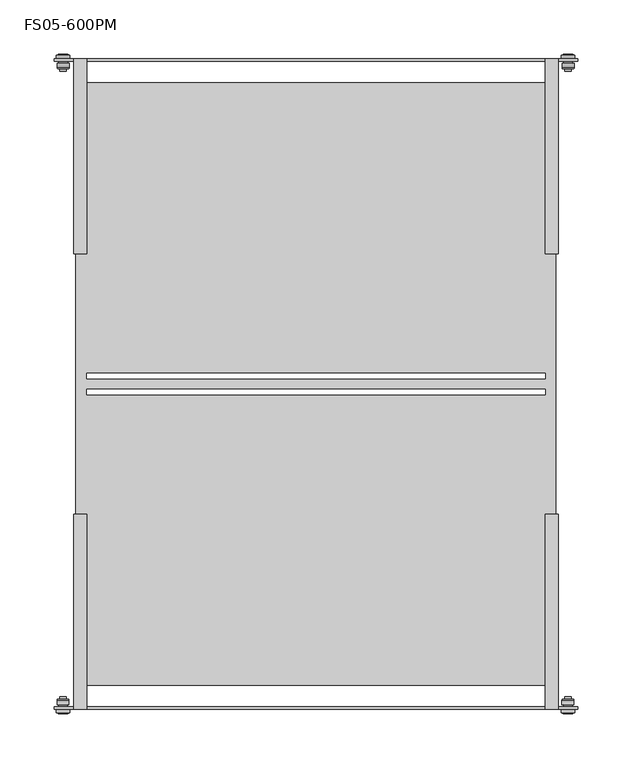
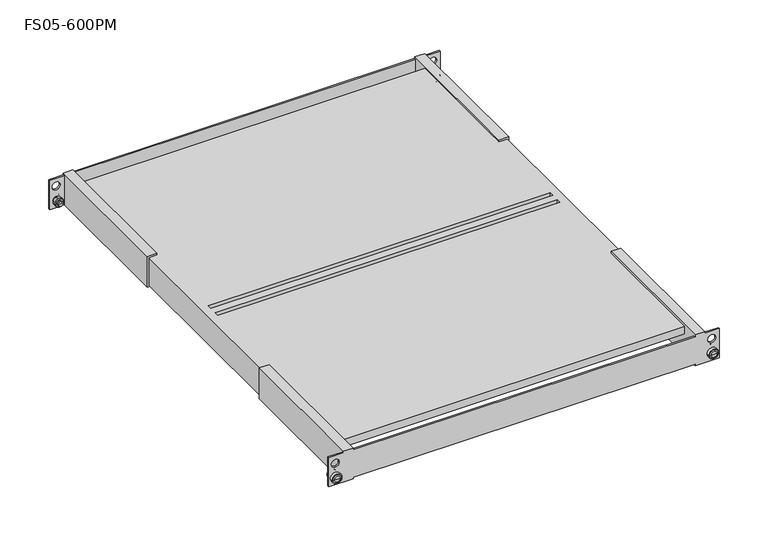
"""IFC4 building model written with IfcOpenShell, lengths in millimetres: proxy geometry, Полки стационарные усиленные : FS05-600PM."""

from ifc_helpers import new_model, si_unit, point, frame, origin, place, context, project, spatial, polyline, circle_curve, ellipse_curve, trimmed, source, transform, mapped, element, save
from ifc_brep_helpers import plane_surface, cylinder_surface, revolved_surface, advanced_brep


def fs05_600pm_b98099e4(model_context):
    return source(origin(), model_context, "Body", "AdvancedBrep", [
        advanced_brep(
        [(232.5819993, -304.3499926, 10.0), (236.0759317, -304.3499926, 10.0), (229.0880669, -304.3499926, 10.0), (229.5820007, -288.7499968, 10.0), (235.5819979, -288.7499968, 10.0), (232.5819993, -288.7499968, 10.0), (229.5820007, -290.7999942, 10.0), (235.5819979, -290.7999942, 10.0), (228.0787333, -290.7999942, 10.0), (237.0852653, -290.7999942, 10.0), (227.082003, -291.7967245, 10.0), (238.0819955, -291.7967245, 10.0), (227.082003, -295.8, 10.0), (238.0819955, -295.8, 10.0), (228.4086476, -298.0, 10.0), (236.755351, -298.0, 10.0), (228.4086476, -300.0, 10.0), (236.755351, -300.0, 10.0), (226.3319978, -300.0, 10.0), (238.8320008, -300.0, 10.0), (226.3319978, -303.5000006, 10.0), (238.8320008, -303.5000006, 10.0), (227.2038342, -303.5000006, 10.0), (237.9601644, -303.5000006, 10.0)],
        [
            (0, 1),
            (1, 2, circle_curve(frame((232.5819993, -304.3499926, 10.0), z_axis=(0.0, -1.0, 0.0), x_axis=(1.0, 0.0, 0.0)), 3.4939324)),
            (2, 0),
            (2, 1, circle_curve(frame((232.5819993, -304.3499926, 10.0), z_axis=(0.0, -1.0, 0.0), x_axis=(1.0, 0.0, 0.0)), 3.4939324)),
            (3, 4, circle_curve(frame((232.5819993, -288.7499968, 10.0), z_axis=(0.0, 1.0, 0.0), x_axis=(1.0, 0.0, 0.0)), 2.9999986)),
            (4, 5),
            (5, 3),
            (4, 3, circle_curve(frame((232.5819993, -288.7499968, 10.0), z_axis=(0.0, 1.0, 0.0), x_axis=(1.0, 0.0, 0.0)), 2.9999986)),
            (6, 7, circle_curve(frame((232.5819993, -290.7999942, 10.0), z_axis=(0.0, 1.0, 0.0), x_axis=(1.0, 0.0, 0.0)), 2.9999986)),
            (7, 4),
            (3, 6),
            (7, 6, circle_curve(frame((232.5819993, -290.7999942, 10.0), z_axis=(0.0, 1.0, 0.0), x_axis=(1.0, 0.0, 0.0)), 2.9999986)),
            (8, 9, circle_curve(frame((232.5819993, -290.7999942, 10.0), z_axis=(0.0, 1.0, 0.0), x_axis=(1.0, 0.0, 0.0)), 4.503266)),
            (9, 7),
            (6, 8),
            (9, 8, circle_curve(frame((232.5819993, -290.7999942, 10.0), z_axis=(0.0, 1.0, 0.0), x_axis=(1.0, 0.0, 0.0)), 4.503266)),
            (10, 11, circle_curve(frame((232.5819993, -291.7967245, 10.0), z_axis=(0.0, 1.0, 0.0), x_axis=(1.0, 0.0, 0.0)), 5.4999962)),
            (11, 9, circle_curve(frame((237.0852653, -291.7967245, 10.0), z_axis=(0.0, 0.0, 1.0), x_axis=(-1.0, 0.0, 0.0)), 0.9967303)),
            (8, 10, circle_curve(frame((228.0787333, -291.7967245, 10.0), z_axis=(0.0, 0.0, 1.0), x_axis=(1.0, 0.0, 0.0)), 0.9967303)),
            (11, 10, circle_curve(frame((232.5819993, -291.7967245, 10.0), z_axis=(0.0, 1.0, 0.0), x_axis=(1.0, 0.0, 0.0)), 5.4999962)),
            (12, 13, circle_curve(frame((232.5819993, -295.8, 10.0), z_axis=(0.0, 1.0, 0.0), x_axis=(1.0, 0.0, 0.0)), 5.4999962)),
            (13, 11),
            (10, 12),
            (13, 12, circle_curve(frame((232.5819993, -295.8, 10.0), z_axis=(0.0, 1.0, 0.0), x_axis=(1.0, 0.0, 0.0)), 5.4999962)),
            (14, 15, circle_curve(frame((232.5819993, -298.0, 10.0), z_axis=(0.0, 1.0, 0.0), x_axis=(1.0, 0.0, 0.0)), 4.1733517)),
            (15, 13, circle_curve(frame((238.0820009, -297.3, 10.0), z_axis=(0.0, 0.0, -1.0), x_axis=(-1.0, 0.0, 0.0)), 1.5)),
            (12, 14, circle_curve(frame((227.0819977, -297.3, 10.0), z_axis=(0.0, 0.0, -1.0), x_axis=(1.0, 0.0, 0.0)), 1.5)),
            (15, 14, circle_curve(frame((232.5819993, -298.0, 10.0), z_axis=(0.0, 1.0, 0.0), x_axis=(1.0, 0.0, 0.0)), 4.1733517)),
            (16, 17, circle_curve(frame((232.5819993, -300.0, 10.0), z_axis=(0.0, 1.0, 0.0), x_axis=(1.0, 0.0, 0.0)), 4.1733517)),
            (17, 15),
            (14, 16),
            (17, 16, circle_curve(frame((232.5819993, -300.0, 10.0), z_axis=(0.0, 1.0, 0.0), x_axis=(1.0, 0.0, 0.0)), 4.1733517)),
            (18, 19, circle_curve(frame((232.5819993, -300.0, 10.0), z_axis=(0.0, 1.0, 0.0), x_axis=(1.0, 0.0, 0.0)), 6.2500015)),
            (19, 17),
            (16, 18),
            (19, 18, circle_curve(frame((232.5819993, -300.0, 10.0), z_axis=(0.0, 1.0, 0.0), x_axis=(1.0, 0.0, 0.0)), 6.2500015)),
            (20, 21, circle_curve(frame((232.5819993, -303.5000006, 10.0), z_axis=(0.0, 1.0, 0.0), x_axis=(1.0, 0.0, 0.0)), 6.2500015)),
            (21, 19),
            (18, 20),
            (21, 20, circle_curve(frame((232.5819993, -303.5000006, 10.0), z_axis=(0.0, 1.0, 0.0), x_axis=(1.0, 0.0, 0.0)), 6.2500015)),
            (22, 23, circle_curve(frame((232.5819993, -303.5000006, 10.0), z_axis=(0.0, 1.0, 0.0), x_axis=(1.0, 0.0, 0.0)), 5.3781651)),
            (23, 21),
            (20, 22),
            (23, 22, circle_curve(frame((232.5819993, -303.5000006, 10.0), z_axis=(0.0, 1.0, 0.0), x_axis=(1.0, 0.0, 0.0)), 5.3781651)),
            (1, 23, circle_curve(frame((236.0820009, -301.85, 10.0), z_axis=(0.0, 0.0, 1.0), x_axis=(-1.0, 0.0, 0.0)), 2.5)),
            (22, 2, circle_curve(frame((229.0819977, -301.85, 10.0), z_axis=(0.0, 0.0, 1.0), x_axis=(1.0, 0.0, 0.0)), 2.5)),
        ],
        [
            plane_surface(frame((232.5819993, -304.3499926, 10.0), z_axis=(0.0, -1.0, 0.0), x_axis=(1.0, 0.0, 0.0))),
            plane_surface(frame((232.5819993, -288.7499968, 10.0), z_axis=(0.0, 1.0, 0.0), x_axis=(1.0, 0.0, 0.0))),
            cylinder_surface(frame((232.5819993, 2309.0581012, 10.0), z_axis=(0.0, -1.0, 0.0), x_axis=(1.0, 0.0, 0.0)), 2.9999986),
            plane_surface(frame((232.5819993, -290.7999942, 10.0), z_axis=(0.0, 1.0, 0.0), x_axis=(1.0, 0.0, 0.0))),
            revolved_surface(trimmed(ellipse_curve(frame((237.0852653, -291.7967245, 10.0), z_axis=(0.0, 0.0, -1.0), x_axis=(-1.0, 0.0, 0.0)), 0.9967303, 0.9967303), [point((237.0852653, -290.7999942, 10.0))], [point((238.0819955, -291.7967245, 10.0))], True, "CARTESIAN"), (232.5819993, 2309.0581012, 10.0), (0.0, -1.0, 0.0)),
            cylinder_surface(frame((232.5819993, 2309.0581012, 10.0), z_axis=(0.0, -1.0, 0.0), x_axis=(1.0, 0.0, 0.0)), 5.4999962),
            revolved_surface(trimmed(ellipse_curve(frame((238.0820009, -297.3, 10.0), z_axis=(0.0, 0.0, 1.0), x_axis=(-1.0, 0.0, 0.0)), 1.5, 1.5), [point((238.0819955, -295.8, 10.0))], [point((236.755351, -298.0, 10.0))], True, "CARTESIAN"), (232.5819993, 2309.0581012, 10.0), (0.0, -1.0, 0.0)),
            cylinder_surface(frame((232.5819993, 2309.0581012, 10.0), z_axis=(0.0, -1.0, 0.0), x_axis=(1.0, 0.0, 0.0)), 4.1733517),
            plane_surface(frame((232.5819993, -300.0, 10.0), z_axis=(0.0, 1.0, 0.0), x_axis=(1.0, 0.0, 0.0))),
            cylinder_surface(frame((232.5819993, 2309.0581012, 10.0), z_axis=(0.0, -1.0, 0.0), x_axis=(1.0, 0.0, 0.0)), 6.2500015),
            plane_surface(frame((232.5819993, -303.5000006, 10.0), z_axis=(0.0, -1.0, 0.0), x_axis=(1.0, 0.0, 0.0))),
            revolved_surface(trimmed(ellipse_curve(frame((236.0820009, -301.85, 10.0), z_axis=(0.0, 0.0, -1.0), x_axis=(-1.0, 0.0, 0.0)), 2.5, 2.5), [point((237.9601644, -303.5000006, 10.0))], [point((236.0759317, -304.3499926, 10.0))], True, "CARTESIAN"), (232.5819993, 2309.0581012, 10.0), (0.0, -1.0, 0.0)),
        ],
        [
            (0, [[1, 2, 3]]),
            (0, [[-3, 4, -1]]),
            (1, [[5, 6, 7]]),
            (1, [[8, -7, -6]]),
            (2, [[9, 10, -5, 11]]),
            (2, [[12, -11, -8, -10]]),
            (3, [[13, 14, -9, 15]]),
            (3, [[16, -15, -12, -14]]),
            (4, [[17, 18, -13, 19]]),
            (4, [[20, -19, -16, -18]]),
            (5, [[21, 22, -17, 23]]),
            (5, [[24, -23, -20, -22]]),
            (6, [[25, 26, -21, 27]]),
            (6, [[28, -27, -24, -26]]),
            (7, [[29, 30, -25, 31]]),
            (7, [[32, -31, -28, -30]]),
            (8, [[33, 34, -29, 35]]),
            (8, [[36, -35, -32, -34]]),
            (9, [[37, 38, -33, 39]]),
            (9, [[40, -39, -36, -38]]),
            (10, [[41, 42, -37, 43]]),
            (10, [[44, -43, -40, -42]]),
            (11, [[-2, 45, -41, 46]]),
            (11, [[-4, -46, -44, -45]]),
        ],
    ),
        advanced_brep(
        [(-233.3319993, -304.3499926, 10.0), (-229.8380669, -304.3499926, 10.0), (-236.8259317, -304.3499926, 10.0), (-230.3320007, -288.7499968, 10.0), (-233.3319993, -288.7499968, 10.0), (-236.3319979, -288.7499968, 10.0), (-230.3320007, -290.7999942, 10.0), (-236.3319979, -290.7999942, 10.0), (-228.8287333, -290.7999942, 10.0), (-237.8352653, -290.7999942, 10.0), (-227.832003, -291.7967245, 10.0), (-238.8319955, -291.7967245, 10.0), (-227.832003, -295.8, 10.0), (-238.8319955, -295.8, 10.0), (-229.1586476, -298.0, 10.0), (-237.505351, -298.0, 10.0), (-229.1586476, -300.0, 10.0), (-237.505351, -300.0, 10.0), (-227.0819978, -300.0, 10.0), (-239.5820008, -300.0, 10.0), (-227.0819978, -303.5000006, 10.0), (-239.5820008, -303.5000006, 10.0), (-227.9538342, -303.5000006, 10.0), (-238.7101644, -303.5000006, 10.0)],
        [
            (0, 1),
            (1, 2, circle_curve(frame((-233.3319993, -304.3499926, 10.0), z_axis=(0.0, -1.0, 0.0), x_axis=(-1.0, 0.0, 0.0)), 3.4939324)),
            (2, 0),
            (2, 1, circle_curve(frame((-233.3319993, -304.3499926, 10.0), z_axis=(0.0, -1.0, 0.0), x_axis=(-1.0, 0.0, 0.0)), 3.4939324)),
            (3, 4),
            (4, 5),
            (5, 3, circle_curve(frame((-233.3319993, -288.7499968, 10.0), z_axis=(0.0, 1.0, 0.0), x_axis=(-1.0, 0.0, 0.0)), 2.9999986)),
            (3, 5, circle_curve(frame((-233.3319993, -288.7499968, 10.0), z_axis=(0.0, 1.0, 0.0), x_axis=(-1.0, 0.0, 0.0)), 2.9999986)),
            (6, 3),
            (5, 7),
            (7, 6, circle_curve(frame((-233.3319993, -290.7999942, 10.0), z_axis=(0.0, 1.0, 0.0), x_axis=(-1.0, 0.0, 0.0)), 2.9999986)),
            (6, 7, circle_curve(frame((-233.3319993, -290.7999942, 10.0), z_axis=(0.0, 1.0, 0.0), x_axis=(-1.0, 0.0, 0.0)), 2.9999986)),
            (8, 6),
            (7, 9),
            (9, 8, circle_curve(frame((-233.3319993, -290.7999942, 10.0), z_axis=(0.0, 1.0, 0.0), x_axis=(-1.0, 0.0, 0.0)), 4.503266)),
            (8, 9, circle_curve(frame((-233.3319993, -290.7999942, 10.0), z_axis=(0.0, 1.0, 0.0), x_axis=(-1.0, 0.0, 0.0)), 4.503266)),
            (10, 8, circle_curve(frame((-228.8287333, -291.7967245, 10.0), z_axis=(0.0, 0.0, 1.0), x_axis=(-1.0, 0.0, 0.0)), 0.9967303)),
            (9, 11, circle_curve(frame((-237.8352653, -291.7967245, 10.0), z_axis=(0.0, 0.0, 1.0), x_axis=(1.0, 0.0, 0.0)), 0.9967303)),
            (11, 10, circle_curve(frame((-233.3319993, -291.7967245, 10.0), z_axis=(0.0, 1.0, 0.0), x_axis=(-1.0, 0.0, 0.0)), 5.4999962)),
            (10, 11, circle_curve(frame((-233.3319993, -291.7967245, 10.0), z_axis=(0.0, 1.0, 0.0), x_axis=(-1.0, 0.0, 0.0)), 5.4999962)),
            (12, 10),
            (11, 13),
            (13, 12, circle_curve(frame((-233.3319993, -295.8, 10.0), z_axis=(0.0, 1.0, 0.0), x_axis=(-1.0, 0.0, 0.0)), 5.4999962)),
            (12, 13, circle_curve(frame((-233.3319993, -295.8, 10.0), z_axis=(0.0, 1.0, 0.0), x_axis=(-1.0, 0.0, 0.0)), 5.4999962)),
            (14, 12, circle_curve(frame((-227.8319977, -297.3, 10.0), z_axis=(0.0, 0.0, -1.0), x_axis=(-1.0, 0.0, 0.0)), 1.5)),
            (13, 15, circle_curve(frame((-238.8320009, -297.3, 10.0), z_axis=(0.0, 0.0, -1.0), x_axis=(1.0, 0.0, 0.0)), 1.5)),
            (15, 14, circle_curve(frame((-233.3319993, -298.0, 10.0), z_axis=(0.0, 1.0, 0.0), x_axis=(-1.0, 0.0, 0.0)), 4.1733517)),
            (14, 15, circle_curve(frame((-233.3319993, -298.0, 10.0), z_axis=(0.0, 1.0, 0.0), x_axis=(-1.0, 0.0, 0.0)), 4.1733517)),
            (16, 14),
            (15, 17),
            (17, 16, circle_curve(frame((-233.3319993, -300.0, 10.0), z_axis=(0.0, 1.0, 0.0), x_axis=(-1.0, 0.0, 0.0)), 4.1733517)),
            (16, 17, circle_curve(frame((-233.3319993, -300.0, 10.0), z_axis=(0.0, 1.0, 0.0), x_axis=(-1.0, 0.0, 0.0)), 4.1733517)),
            (18, 16),
            (17, 19),
            (19, 18, circle_curve(frame((-233.3319993, -300.0, 10.0), z_axis=(0.0, 1.0, 0.0), x_axis=(-1.0, 0.0, 0.0)), 6.2500015)),
            (18, 19, circle_curve(frame((-233.3319993, -300.0, 10.0), z_axis=(0.0, 1.0, 0.0), x_axis=(-1.0, 0.0, 0.0)), 6.2500015)),
            (20, 18),
            (19, 21),
            (21, 20, circle_curve(frame((-233.3319993, -303.5000006, 10.0), z_axis=(0.0, 1.0, 0.0), x_axis=(-1.0, 0.0, 0.0)), 6.2500015)),
            (20, 21, circle_curve(frame((-233.3319993, -303.5000006, 10.0), z_axis=(0.0, 1.0, 0.0), x_axis=(-1.0, 0.0, 0.0)), 6.2500015)),
            (22, 20),
            (21, 23),
            (23, 22, circle_curve(frame((-233.3319993, -303.5000006, 10.0), z_axis=(0.0, 1.0, 0.0), x_axis=(-1.0, 0.0, 0.0)), 5.3781651)),
            (22, 23, circle_curve(frame((-233.3319993, -303.5000006, 10.0), z_axis=(0.0, 1.0, 0.0), x_axis=(-1.0, 0.0, 0.0)), 5.3781651)),
            (1, 22, circle_curve(frame((-229.8319977, -301.85, 10.0), z_axis=(0.0, 0.0, 1.0), x_axis=(-1.0, 0.0, 0.0)), 2.5)),
            (23, 2, circle_curve(frame((-236.8320009, -301.85, 10.0), z_axis=(0.0, 0.0, 1.0), x_axis=(1.0, 0.0, 0.0)), 2.5)),
        ],
        [
            plane_surface(frame((-233.3319993, -304.3499926, 10.0), z_axis=(0.0, -1.0, 0.0), x_axis=(-1.0, 0.0, 0.0))),
            plane_surface(frame((-233.3319993, -288.7499968, 10.0), z_axis=(0.0, 1.0, 0.0), x_axis=(-1.0, 0.0, 0.0))),
            cylinder_surface(frame((-233.3319993, 2309.0581012, 10.0), z_axis=(0.0, -1.0, 0.0), x_axis=(-1.0, 0.0, 0.0)), 2.9999986),
            plane_surface(frame((-233.3319993, -290.7999942, 10.0), z_axis=(0.0, 1.0, 0.0), x_axis=(-1.0, 0.0, 0.0))),
            revolved_surface(trimmed(ellipse_curve(frame((-237.8352653, -291.7967245, 10.0), z_axis=(0.0, 0.0, 1.0), x_axis=(1.0, 0.0, 0.0)), 0.9967303, 0.9967303), [point((-237.8352653, -290.7999942, 10.0))], [point((-238.8319955, -291.7967245, 10.0))], True, "CARTESIAN"), (-233.3319993, 2309.0581012, 10.0), (0.0, -1.0, 0.0)),
            cylinder_surface(frame((-233.3319993, 2309.0581012, 10.0), z_axis=(0.0, -1.0, 0.0), x_axis=(-1.0, 0.0, 0.0)), 5.4999962),
            revolved_surface(trimmed(ellipse_curve(frame((-238.8320009, -297.3, 10.0), z_axis=(0.0, 0.0, -1.0), x_axis=(1.0, 0.0, 0.0)), 1.5, 1.5), [point((-238.8319955, -295.8, 10.0))], [point((-237.505351, -298.0, 10.0))], True, "CARTESIAN"), (-233.3319993, 2309.0581012, 10.0), (0.0, -1.0, 0.0)),
            cylinder_surface(frame((-233.3319993, 2309.0581012, 10.0), z_axis=(0.0, -1.0, 0.0), x_axis=(-1.0, 0.0, 0.0)), 4.1733517),
            plane_surface(frame((-233.3319993, -300.0, 10.0), z_axis=(0.0, 1.0, 0.0), x_axis=(-1.0, 0.0, 0.0))),
            cylinder_surface(frame((-233.3319993, 2309.0581012, 10.0), z_axis=(0.0, -1.0, 0.0), x_axis=(-1.0, 0.0, 0.0)), 6.2500015),
            plane_surface(frame((-233.3319993, -303.5000006, 10.0), z_axis=(0.0, -1.0, 0.0), x_axis=(-1.0, 0.0, 0.0))),
            revolved_surface(trimmed(ellipse_curve(frame((-236.8320009, -301.85, 10.0), z_axis=(0.0, 0.0, 1.0), x_axis=(1.0, 0.0, 0.0)), 2.5, 2.5), [point((-238.7101644, -303.5000006, 10.0))], [point((-236.8259317, -304.3499926, 10.0))], True, "CARTESIAN"), (-233.3319993, 2309.0581012, 10.0), (0.0, -1.0, 0.0)),
        ],
        [
            (0, [[1, 2, 3]]),
            (0, [[-3, 4, -1]]),
            (1, [[5, 6, 7]]),
            (1, [[-6, -5, 8]]),
            (2, [[9, -7, 10, 11]]),
            (2, [[-10, -8, -9, 12]]),
            (3, [[13, -11, 14, 15]]),
            (3, [[-14, -12, -13, 16]]),
            (4, [[17, -15, 18, 19]]),
            (4, [[-18, -16, -17, 20]]),
            (5, [[21, -19, 22, 23]]),
            (5, [[-22, -20, -21, 24]]),
            (6, [[25, -23, 26, 27]]),
            (6, [[-26, -24, -25, 28]]),
            (7, [[29, -27, 30, 31]]),
            (7, [[-30, -28, -29, 32]]),
            (8, [[33, -31, 34, 35]]),
            (8, [[-34, -32, -33, 36]]),
            (9, [[37, -35, 38, 39]]),
            (9, [[-38, -36, -37, 40]]),
            (10, [[41, -39, 42, 43]]),
            (10, [[-42, -40, -41, 44]]),
            (11, [[45, -43, 46, -2]]),
            (11, [[-46, -44, -45, -4]]),
        ],
    ),
        advanced_brep(
        [(232.7069993, 304.3499926, 10.0), (229.2130669, 304.3499926, 10.0), (236.2009317, 304.3499926, 10.0), (229.7070007, 288.7499968, 10.0), (232.7069993, 288.7499968, 10.0), (235.7069979, 288.7499968, 10.0), (229.7070007, 290.7999942, 10.0), (235.7069979, 290.7999942, 10.0), (228.2037333, 290.7999942, 10.0), (237.2102653, 290.7999942, 10.0), (227.207003, 291.7967245, 10.0), (238.2069955, 291.7967245, 10.0), (227.207003, 295.8, 10.0), (238.2069955, 295.8, 10.0), (228.5336476, 298.0, 10.0), (236.880351, 298.0, 10.0), (228.5336476, 300.0, 10.0), (236.880351, 300.0, 10.0), (226.4569978, 300.0, 10.0), (238.9570008, 300.0, 10.0), (226.4569978, 303.5000006, 10.0), (238.9570008, 303.5000006, 10.0), (227.3288342, 303.5000006, 10.0), (238.0851644, 303.5000006, 10.0)],
        [
            (0, 1),
            (1, 2, circle_curve(frame((232.7069993, 304.3499926, 10.0), z_axis=(0.0, 1.0, 0.0), x_axis=(1.0, 0.0, 0.0)), 3.4939324)),
            (2, 0),
            (2, 1, circle_curve(frame((232.7069993, 304.3499926, 10.0), z_axis=(0.0, 1.0, 0.0), x_axis=(1.0, 0.0, 0.0)), 3.4939324)),
            (3, 4),
            (4, 5),
            (5, 3, circle_curve(frame((232.7069993, 288.7499968, 10.0), z_axis=(0.0, -1.0, 0.0), x_axis=(1.0, 0.0, 0.0)), 2.9999986)),
            (3, 5, circle_curve(frame((232.7069993, 288.7499968, 10.0), z_axis=(0.0, -1.0, 0.0), x_axis=(1.0, 0.0, 0.0)), 2.9999986)),
            (6, 3),
            (5, 7),
            (7, 6, circle_curve(frame((232.7069993, 290.7999942, 10.0), z_axis=(0.0, -1.0, 0.0), x_axis=(1.0, 0.0, 0.0)), 2.9999986)),
            (6, 7, circle_curve(frame((232.7069993, 290.7999942, 10.0), z_axis=(0.0, -1.0, 0.0), x_axis=(1.0, 0.0, 0.0)), 2.9999986)),
            (8, 6),
            (7, 9),
            (9, 8, circle_curve(frame((232.7069993, 290.7999942, 10.0), z_axis=(0.0, -1.0, 0.0), x_axis=(1.0, 0.0, 0.0)), 4.503266)),
            (8, 9, circle_curve(frame((232.7069993, 290.7999942, 10.0), z_axis=(0.0, -1.0, 0.0), x_axis=(1.0, 0.0, 0.0)), 4.503266)),
            (10, 8, circle_curve(frame((228.2037333, 291.7967245, 10.0), z_axis=(0.0, 0.0, 1.0), x_axis=(1.0, 0.0, 0.0)), 0.9967303)),
            (9, 11, circle_curve(frame((237.2102653, 291.7967245, 10.0), z_axis=(0.0, 0.0, 1.0), x_axis=(-1.0, 0.0, 0.0)), 0.9967303)),
            (11, 10, circle_curve(frame((232.7069993, 291.7967245, 10.0), z_axis=(0.0, -1.0, 0.0), x_axis=(1.0, 0.0, 0.0)), 5.4999962)),
            (10, 11, circle_curve(frame((232.7069993, 291.7967245, 10.0), z_axis=(0.0, -1.0, 0.0), x_axis=(1.0, 0.0, 0.0)), 5.4999962)),
            (12, 10),
            (11, 13),
            (13, 12, circle_curve(frame((232.7069993, 295.8, 10.0), z_axis=(0.0, -1.0, 0.0), x_axis=(1.0, 0.0, 0.0)), 5.4999962)),
            (12, 13, circle_curve(frame((232.7069993, 295.8, 10.0), z_axis=(0.0, -1.0, 0.0), x_axis=(1.0, 0.0, 0.0)), 5.4999962)),
            (14, 12, circle_curve(frame((227.2069977, 297.3, 10.0), z_axis=(0.0, 0.0, -1.0), x_axis=(1.0, 0.0, 0.0)), 1.5)),
            (13, 15, circle_curve(frame((238.2070009, 297.3, 10.0), z_axis=(0.0, 0.0, -1.0), x_axis=(-1.0, 0.0, 0.0)), 1.5)),
            (15, 14, circle_curve(frame((232.7069993, 298.0, 10.0), z_axis=(0.0, -1.0, 0.0), x_axis=(1.0, 0.0, 0.0)), 4.1733517)),
            (14, 15, circle_curve(frame((232.7069993, 298.0, 10.0), z_axis=(0.0, -1.0, 0.0), x_axis=(1.0, 0.0, 0.0)), 4.1733517)),
            (16, 14),
            (15, 17),
            (17, 16, circle_curve(frame((232.7069993, 300.0, 10.0), z_axis=(0.0, -1.0, 0.0), x_axis=(1.0, 0.0, 0.0)), 4.1733517)),
            (16, 17, circle_curve(frame((232.7069993, 300.0, 10.0), z_axis=(0.0, -1.0, 0.0), x_axis=(1.0, 0.0, 0.0)), 4.1733517)),
            (18, 16),
            (17, 19),
            (19, 18, circle_curve(frame((232.7069993, 300.0, 10.0), z_axis=(0.0, -1.0, 0.0), x_axis=(1.0, 0.0, 0.0)), 6.2500015)),
            (18, 19, circle_curve(frame((232.7069993, 300.0, 10.0), z_axis=(0.0, -1.0, 0.0), x_axis=(1.0, 0.0, 0.0)), 6.2500015)),
            (20, 18),
            (19, 21),
            (21, 20, circle_curve(frame((232.7069993, 303.5000006, 10.0), z_axis=(0.0, -1.0, 0.0), x_axis=(1.0, 0.0, 0.0)), 6.2500015)),
            (20, 21, circle_curve(frame((232.7069993, 303.5000006, 10.0), z_axis=(0.0, -1.0, 0.0), x_axis=(1.0, 0.0, 0.0)), 6.2500015)),
            (22, 20),
            (21, 23),
            (23, 22, circle_curve(frame((232.7069993, 303.5000006, 10.0), z_axis=(0.0, -1.0, 0.0), x_axis=(1.0, 0.0, 0.0)), 5.3781651)),
            (22, 23, circle_curve(frame((232.7069993, 303.5000006, 10.0), z_axis=(0.0, -1.0, 0.0), x_axis=(1.0, 0.0, 0.0)), 5.3781651)),
            (1, 22, circle_curve(frame((229.2069977, 301.85, 10.0), z_axis=(0.0, 0.0, 1.0), x_axis=(1.0, 0.0, 0.0)), 2.5)),
            (23, 2, circle_curve(frame((236.2070009, 301.85, 10.0), z_axis=(0.0, 0.0, 1.0), x_axis=(-1.0, 0.0, 0.0)), 2.5)),
        ],
        [
            plane_surface(frame((232.7069993, 304.3499926, 10.0), z_axis=(0.0, 1.0, 0.0), x_axis=(1.0, 0.0, 0.0))),
            plane_surface(frame((232.7069993, 288.7499968, 10.0), z_axis=(0.0, -1.0, 0.0), x_axis=(1.0, 0.0, 0.0))),
            cylinder_surface(frame((232.7069993, -2309.0581012, 10.0), z_axis=(0.0, 1.0, 0.0), x_axis=(1.0, 0.0, 0.0)), 2.9999986),
            plane_surface(frame((232.7069993, 290.7999942, 10.0), z_axis=(0.0, -1.0, 0.0), x_axis=(1.0, 0.0, 0.0))),
            revolved_surface(trimmed(ellipse_curve(frame((237.2102653, 291.7967245, 10.0), z_axis=(0.0, 0.0, 1.0), x_axis=(-1.0, 0.0, 0.0)), 0.9967303, 0.9967303), [point((237.2102653, 290.7999942, 10.0))], [point((238.2069955, 291.7967245, 10.0))], True, "CARTESIAN"), (232.7069993, -2309.0581012, 10.0), (0.0, 1.0, 0.0)),
            cylinder_surface(frame((232.7069993, -2309.0581012, 10.0), z_axis=(0.0, 1.0, 0.0), x_axis=(1.0, 0.0, 0.0)), 5.4999962),
            revolved_surface(trimmed(ellipse_curve(frame((238.2070009, 297.3, 10.0), z_axis=(0.0, 0.0, -1.0), x_axis=(-1.0, 0.0, 0.0)), 1.5, 1.5), [point((238.2069955, 295.8, 10.0))], [point((236.880351, 298.0, 10.0))], True, "CARTESIAN"), (232.7069993, -2309.0581012, 10.0), (0.0, 1.0, 0.0)),
            cylinder_surface(frame((232.7069993, -2309.0581012, 10.0), z_axis=(0.0, 1.0, 0.0), x_axis=(1.0, 0.0, 0.0)), 4.1733517),
            plane_surface(frame((232.7069993, 300.0, 10.0), z_axis=(0.0, -1.0, 0.0), x_axis=(1.0, 0.0, 0.0))),
            cylinder_surface(frame((232.7069993, -2309.0581012, 10.0), z_axis=(0.0, 1.0, 0.0), x_axis=(1.0, 0.0, 0.0)), 6.2500015),
            plane_surface(frame((232.7069993, 303.5000006, 10.0), z_axis=(0.0, 1.0, 0.0), x_axis=(1.0, 0.0, 0.0))),
            revolved_surface(trimmed(ellipse_curve(frame((236.2070009, 301.85, 10.0), z_axis=(0.0, 0.0, 1.0), x_axis=(-1.0, 0.0, 0.0)), 2.5, 2.5), [point((238.0851644, 303.5000006, 10.0))], [point((236.2009317, 304.3499926, 10.0))], True, "CARTESIAN"), (232.7069993, -2309.0581012, 10.0), (0.0, 1.0, 0.0)),
        ],
        [
            (0, [[1, 2, 3]]),
            (0, [[-3, 4, -1]]),
            (1, [[5, 6, 7]]),
            (1, [[-6, -5, 8]]),
            (2, [[9, -7, 10, 11]]),
            (2, [[-10, -8, -9, 12]]),
            (3, [[13, -11, 14, 15]]),
            (3, [[-14, -12, -13, 16]]),
            (4, [[17, -15, 18, 19]]),
            (4, [[-18, -16, -17, 20]]),
            (5, [[21, -19, 22, 23]]),
            (5, [[-22, -20, -21, 24]]),
            (6, [[25, -23, 26, 27]]),
            (6, [[-26, -24, -25, 28]]),
            (7, [[29, -27, 30, 31]]),
            (7, [[-30, -28, -29, 32]]),
            (8, [[33, -31, 34, 35]]),
            (8, [[-34, -32, -33, 36]]),
            (9, [[37, -35, 38, 39]]),
            (9, [[-38, -36, -37, 40]]),
            (10, [[41, -39, 42, 43]]),
            (10, [[-42, -40, -41, 44]]),
            (11, [[45, -43, 46, -2]]),
            (11, [[-46, -44, -45, -4]]),
        ],
    ),
        advanced_brep(
        [(-233.2069993, 304.3499926, 10.0), (-236.7009317, 304.3499926, 10.0), (-229.7130669, 304.3499926, 10.0), (-230.2070007, 288.7499968, 10.0), (-236.2069979, 288.7499968, 10.0), (-233.2069993, 288.7499968, 10.0), (-230.2070007, 290.7999942, 10.0), (-236.2069979, 290.7999942, 10.0), (-228.7037333, 290.7999942, 10.0), (-237.7102653, 290.7999942, 10.0), (-227.707003, 291.7967245, 10.0), (-238.7069955, 291.7967245, 10.0), (-227.707003, 295.8, 10.0), (-238.7069955, 295.8, 10.0), (-229.0336476, 298.0, 10.0), (-237.380351, 298.0, 10.0), (-229.0336476, 300.0, 10.0), (-237.380351, 300.0, 10.0), (-226.9569978, 300.0, 10.0), (-239.4570008, 300.0, 10.0), (-226.9569978, 303.5000006, 10.0), (-239.4570008, 303.5000006, 10.0), (-227.8288342, 303.5000006, 10.0), (-238.5851644, 303.5000006, 10.0)],
        [
            (0, 1),
            (1, 2, circle_curve(frame((-233.2069993, 304.3499926, 10.0), z_axis=(0.0, 1.0, 0.0), x_axis=(-1.0, 0.0, 0.0)), 3.4939324)),
            (2, 0),
            (2, 1, circle_curve(frame((-233.2069993, 304.3499926, 10.0), z_axis=(0.0, 1.0, 0.0), x_axis=(-1.0, 0.0, 0.0)), 3.4939324)),
            (3, 4, circle_curve(frame((-233.2069993, 288.7499968, 10.0), z_axis=(0.0, -1.0, 0.0), x_axis=(-1.0, 0.0, 0.0)), 2.9999986)),
            (4, 5),
            (5, 3),
            (4, 3, circle_curve(frame((-233.2069993, 288.7499968, 10.0), z_axis=(0.0, -1.0, 0.0), x_axis=(-1.0, 0.0, 0.0)), 2.9999986)),
            (6, 7, circle_curve(frame((-233.2069993, 290.7999942, 10.0), z_axis=(0.0, -1.0, 0.0), x_axis=(-1.0, 0.0, 0.0)), 2.9999986)),
            (7, 4),
            (3, 6),
            (7, 6, circle_curve(frame((-233.2069993, 290.7999942, 10.0), z_axis=(0.0, -1.0, 0.0), x_axis=(-1.0, 0.0, 0.0)), 2.9999986)),
            (8, 9, circle_curve(frame((-233.2069993, 290.7999942, 10.0), z_axis=(0.0, -1.0, 0.0), x_axis=(-1.0, 0.0, 0.0)), 4.503266)),
            (9, 7),
            (6, 8),
            (9, 8, circle_curve(frame((-233.2069993, 290.7999942, 10.0), z_axis=(0.0, -1.0, 0.0), x_axis=(-1.0, 0.0, 0.0)), 4.503266)),
            (10, 11, circle_curve(frame((-233.2069993, 291.7967245, 10.0), z_axis=(0.0, -1.0, 0.0), x_axis=(-1.0, 0.0, 0.0)), 5.4999962)),
            (11, 9, circle_curve(frame((-237.7102653, 291.7967245, 10.0), z_axis=(0.0, 0.0, 1.0), x_axis=(1.0, 0.0, 0.0)), 0.9967303)),
            (8, 10, circle_curve(frame((-228.7037333, 291.7967245, 10.0), z_axis=(0.0, 0.0, 1.0), x_axis=(-1.0, 0.0, 0.0)), 0.9967303)),
            (11, 10, circle_curve(frame((-233.2069993, 291.7967245, 10.0), z_axis=(0.0, -1.0, 0.0), x_axis=(-1.0, 0.0, 0.0)), 5.4999962)),
            (12, 13, circle_curve(frame((-233.2069993, 295.8, 10.0), z_axis=(0.0, -1.0, 0.0), x_axis=(-1.0, 0.0, 0.0)), 5.4999962)),
            (13, 11),
            (10, 12),
            (13, 12, circle_curve(frame((-233.2069993, 295.8, 10.0), z_axis=(0.0, -1.0, 0.0), x_axis=(-1.0, 0.0, 0.0)), 5.4999962)),
            (14, 15, circle_curve(frame((-233.2069993, 298.0, 10.0), z_axis=(0.0, -1.0, 0.0), x_axis=(-1.0, 0.0, 0.0)), 4.1733517)),
            (15, 13, circle_curve(frame((-238.7070009, 297.3, 10.0), z_axis=(0.0, 0.0, -1.0), x_axis=(1.0, 0.0, 0.0)), 1.5)),
            (12, 14, circle_curve(frame((-227.7069977, 297.3, 10.0), z_axis=(0.0, 0.0, -1.0), x_axis=(-1.0, 0.0, 0.0)), 1.5)),
            (15, 14, circle_curve(frame((-233.2069993, 298.0, 10.0), z_axis=(0.0, -1.0, 0.0), x_axis=(-1.0, 0.0, 0.0)), 4.1733517)),
            (16, 17, circle_curve(frame((-233.2069993, 300.0, 10.0), z_axis=(0.0, -1.0, 0.0), x_axis=(-1.0, 0.0, 0.0)), 4.1733517)),
            (17, 15),
            (14, 16),
            (17, 16, circle_curve(frame((-233.2069993, 300.0, 10.0), z_axis=(0.0, -1.0, 0.0), x_axis=(-1.0, 0.0, 0.0)), 4.1733517)),
            (18, 19, circle_curve(frame((-233.2069993, 300.0, 10.0), z_axis=(0.0, -1.0, 0.0), x_axis=(-1.0, 0.0, 0.0)), 6.2500015)),
            (19, 17),
            (16, 18),
            (19, 18, circle_curve(frame((-233.2069993, 300.0, 10.0), z_axis=(0.0, -1.0, 0.0), x_axis=(-1.0, 0.0, 0.0)), 6.2500015)),
            (20, 21, circle_curve(frame((-233.2069993, 303.5000006, 10.0), z_axis=(0.0, -1.0, 0.0), x_axis=(-1.0, 0.0, 0.0)), 6.2500015)),
            (21, 19),
            (18, 20),
            (21, 20, circle_curve(frame((-233.2069993, 303.5000006, 10.0), z_axis=(0.0, -1.0, 0.0), x_axis=(-1.0, 0.0, 0.0)), 6.2500015)),
            (22, 23, circle_curve(frame((-233.2069993, 303.5000006, 10.0), z_axis=(0.0, -1.0, 0.0), x_axis=(-1.0, 0.0, 0.0)), 5.3781651)),
            (23, 21),
            (20, 22),
            (23, 22, circle_curve(frame((-233.2069993, 303.5000006, 10.0), z_axis=(0.0, -1.0, 0.0), x_axis=(-1.0, 0.0, 0.0)), 5.3781651)),
            (1, 23, circle_curve(frame((-236.7070009, 301.85, 10.0), z_axis=(0.0, 0.0, 1.0), x_axis=(1.0, 0.0, 0.0)), 2.5)),
            (22, 2, circle_curve(frame((-229.7069977, 301.85, 10.0), z_axis=(0.0, 0.0, 1.0), x_axis=(-1.0, 0.0, 0.0)), 2.5)),
        ],
        [
            plane_surface(frame((-233.2069993, 304.3499926, 10.0), z_axis=(0.0, 1.0, 0.0), x_axis=(-1.0, 0.0, 0.0))),
            plane_surface(frame((-233.2069993, 288.7499968, 10.0), z_axis=(0.0, -1.0, 0.0), x_axis=(-1.0, 0.0, 0.0))),
            cylinder_surface(frame((-233.2069993, -2309.0581012, 10.0), z_axis=(0.0, 1.0, 0.0), x_axis=(-1.0, 0.0, 0.0)), 2.9999986),
            plane_surface(frame((-233.2069993, 290.7999942, 10.0), z_axis=(0.0, -1.0, 0.0), x_axis=(-1.0, 0.0, 0.0))),
            revolved_surface(trimmed(ellipse_curve(frame((-237.7102653, 291.7967245, 10.0), z_axis=(0.0, 0.0, -1.0), x_axis=(1.0, 0.0, 0.0)), 0.9967303, 0.9967303), [point((-237.7102653, 290.7999942, 10.0))], [point((-238.7069955, 291.7967245, 10.0))], True, "CARTESIAN"), (-233.2069993, -2309.0581012, 10.0), (0.0, 1.0, 0.0)),
            cylinder_surface(frame((-233.2069993, -2309.0581012, 10.0), z_axis=(0.0, 1.0, 0.0), x_axis=(-1.0, 0.0, 0.0)), 5.4999962),
            revolved_surface(trimmed(ellipse_curve(frame((-238.7070009, 297.3, 10.0), z_axis=(0.0, 0.0, 1.0), x_axis=(1.0, 0.0, 0.0)), 1.5, 1.5), [point((-238.7069955, 295.8, 10.0))], [point((-237.380351, 298.0, 10.0))], True, "CARTESIAN"), (-233.2069993, -2309.0581012, 10.0), (0.0, 1.0, 0.0)),
            cylinder_surface(frame((-233.2069993, -2309.0581012, 10.0), z_axis=(0.0, 1.0, 0.0), x_axis=(-1.0, 0.0, 0.0)), 4.1733517),
            plane_surface(frame((-233.2069993, 300.0, 10.0), z_axis=(0.0, -1.0, 0.0), x_axis=(-1.0, 0.0, 0.0))),
            cylinder_surface(frame((-233.2069993, -2309.0581012, 10.0), z_axis=(0.0, 1.0, 0.0), x_axis=(-1.0, 0.0, 0.0)), 6.2500015),
            plane_surface(frame((-233.2069993, 303.5000006, 10.0), z_axis=(0.0, 1.0, 0.0), x_axis=(-1.0, 0.0, 0.0))),
            revolved_surface(trimmed(ellipse_curve(frame((-236.7070009, 301.85, 10.0), z_axis=(0.0, 0.0, -1.0), x_axis=(1.0, 0.0, 0.0)), 2.5, 2.5), [point((-238.5851644, 303.5000006, 10.0))], [point((-236.7009317, 304.3499926, 10.0))], True, "CARTESIAN"), (-233.2069993, -2309.0581012, 10.0), (0.0, 1.0, 0.0)),
        ],
        [
            (0, [[1, 2, 3]]),
            (0, [[-3, 4, -1]]),
            (1, [[5, 6, 7]]),
            (1, [[8, -7, -6]]),
            (2, [[9, 10, -5, 11]]),
            (2, [[12, -11, -8, -10]]),
            (3, [[13, 14, -9, 15]]),
            (3, [[16, -15, -12, -14]]),
            (4, [[17, 18, -13, 19]]),
            (4, [[20, -19, -16, -18]]),
            (5, [[21, 22, -17, 23]]),
            (5, [[24, -23, -20, -22]]),
            (6, [[25, 26, -21, 27]]),
            (6, [[28, -27, -24, -26]]),
            (7, [[29, 30, -25, 31]]),
            (7, [[32, -31, -28, -30]]),
            (8, [[33, 34, -29, 35]]),
            (8, [[36, -35, -32, -34]]),
            (9, [[37, 38, -33, 39]]),
            (9, [[40, -39, -36, -38]]),
            (10, [[41, 42, -37, 43]]),
            (10, [[44, -43, -40, -42]]),
            (11, [[-2, 45, -41, 46]]),
            (11, [[-4, -46, -44, -45]]),
        ],
    ),
        advanced_brep(
        [(-211.5, -300.0, 38.0), (-211.5, -300.0, 40.0), (-223.5, -300.0, 40.0), (-223.5, -300.0, 38.0), (-241.5, -300.0, 38.0), (-241.5, -300.0, 0.0), (-211.5, -300.0, 0.0), (-211.5, -300.0, 2.0), (211.5, -300.0, 2.0), (211.5, -300.0, 0.0), (241.5, -300.0, 0.0), (241.5, -300.0, 38.0), (223.5, -300.0, 38.0), (223.5, -300.0, 40.0), (211.5, -300.0, 40.0), (211.5, -300.0, 38.0), (-228.4375, -300.0, 28.0), (-238.4375, -300.0, 28.0), (237.1875, -300.0, 28.0), (227.1875, -300.0, 28.0), (-211.5, -120.0, 2.0), (-211.5, -120.0, 0.0), (-223.5, -120.0, 0.0), (-223.5, -120.0, 40.0), (-211.5, -120.0, 40.0), (-211.5, -120.0, 38.0), (-221.5, -120.0, 38.0), (-221.5, -120.0, 2.0), (211.5, -120.0, 38.0), (211.5, -120.0, 40.0), (223.5, -120.0, 40.0), (223.5, -120.0, 0.0), (211.5, -120.0, 0.0), (211.5, -120.0, 2.0), (221.5, -120.0, 2.0), (221.5, -120.0, 38.0), (-211.5, -298.0, 38.0), (-211.5, -298.0, 2.0), (-211.5, -5.0, 2.0), (-211.5, -5.0, 38.0), (-211.5, -10.0, 38.0), (-211.5, -10.0, 28.0), (-211.5, -278.0, 28.0), (-211.5, -278.0, 38.0), (-241.5, -298.0, 0.0), (-223.5, -298.0, 0.0), (223.5, -298.0, 0.0), (241.5, -298.0, 0.0), (-241.5, 298.0, 0.0), (-241.5, 300.0, 0.0), (-211.5, 300.0, 0.0), (-211.5, 120.0, 0.0), (-223.5, 120.0, 0.0), (-223.5, 298.0, 0.0), (241.5, 300.0, 0.0), (241.5, 298.0, 0.0), (223.5, 298.0, 0.0), (223.5, 120.0, 0.0), (211.5, 120.0, 0.0), (211.5, 300.0, 0.0), (211.5, -298.0, 2.0), (211.5, -298.0, 38.0), (211.5, -278.0, 38.0), (211.5, -278.0, 28.0), (211.5, -10.0, 28.0), (211.5, -10.0, 38.0), (211.5, -5.0, 38.0), (211.5, -5.0, 2.0), (-241.5, 298.0, 38.0), (-223.5, 298.0, 38.0), (-223.5, 300.0, 38.0), (-241.5, 300.0, 38.0), (-223.5, -298.0, 38.0), (-241.5, -298.0, 38.0), (241.5, -298.0, 38.0), (223.5, -298.0, 38.0), (241.5, 300.0, 38.0), (223.5, 300.0, 38.0), (223.5, 298.0, 38.0), (241.5, 298.0, 38.0), (-228.4375, 298.0, 28.0), (-238.4375, 298.0, 28.0), (-223.5, 300.0, 40.0), (-211.5, 300.0, 40.0), (-211.5, 300.0, 38.0), (211.5, 300.0, 38.0), (211.5, 300.0, 40.0), (223.5, 300.0, 40.0), (211.5, 300.0, 2.0), (-211.5, 300.0, 2.0), (-238.4375, 300.0, 28.0), (-228.4375, 300.0, 28.0), (227.1875, 300.0, 28.0), (237.1875, 300.0, 28.0), (-238.4375, -298.0, 28.0), (-228.4375, -298.0, 28.0), (227.1875, -298.0, 28.0), (237.1875, -298.0, 28.0), (237.1875, 298.0, 28.0), (227.1875, 298.0, 28.0), (-211.5, 120.0, 38.0), (-211.5, 120.0, 40.0), (-223.5, 120.0, 40.0), (-211.5, 120.0, 2.0), (-221.5, 120.0, 2.0), (-221.5, 120.0, 38.0), (211.5, 120.0, 2.0), (223.5, 120.0, 40.0), (211.5, 120.0, 40.0), (211.5, 120.0, 38.0), (221.5, 120.0, 38.0), (221.5, 120.0, 2.0), (-211.5, 278.0, 38.0), (-211.5, 278.0, 28.0), (-211.5, 10.0, 28.0), (-211.5, 10.0, 38.0), (-211.5, 5.0, 38.0), (-211.5, 5.0, 2.0), (-211.5, 298.0, 2.0), (-211.5, 298.0, 38.0), (211.5, 5.0, 2.0), (211.5, 5.0, 38.0), (211.5, 10.0, 38.0), (211.5, 10.0, 28.0), (211.5, 278.0, 28.0), (211.5, 278.0, 38.0), (211.5, 298.0, 38.0), (211.5, 298.0, 2.0)],
        [
            (0, 1),
            (1, 2),
            (2, 3),
            (3, 4),
            (4, 5),
            (5, 6),
            (6, 7),
            (7, 8),
            (8, 9),
            (9, 10),
            (10, 11),
            (11, 12),
            (12, 13),
            (13, 14),
            (14, 15),
            (15, 0),
            (16, 17, circle_curve(frame((-233.4375, -300.0, 28.0), z_axis=(0.0, 1.0, 0.0), x_axis=(1.0, 0.0, 0.0)), 5.0)),
            (17, 16, circle_curve(frame((-233.4375, -300.0, 28.0), z_axis=(0.0, 1.0, 0.0), x_axis=(1.0, 0.0, 0.0)), 5.0)),
            (18, 19, circle_curve(frame((232.1875, -300.0, 28.0), z_axis=(0.0, 1.0, 0.0), x_axis=(1.0, 0.0, 0.0)), 5.0)),
            (19, 18, circle_curve(frame((232.1875, -300.0, 28.0), z_axis=(0.0, 1.0, 0.0), x_axis=(1.0, 0.0, 0.0)), 5.0)),
            (20, 21),
            (21, 22),
            (22, 23),
            (23, 24),
            (24, 25),
            (25, 26),
            (26, 27),
            (27, 20),
            (28, 29),
            (29, 30),
            (30, 31),
            (31, 32),
            (32, 33),
            (33, 34),
            (34, 35),
            (35, 28),
            (0, 36),
            (36, 37),
            (37, 7),
            (6, 21),
            (20, 38),
            (38, 39),
            (39, 40),
            (40, 41),
            (41, 42),
            (42, 43),
            (43, 25),
            (24, 1),
            (5, 44),
            (44, 45),
            (45, 22),
            (31, 46),
            (46, 47),
            (47, 10),
            (9, 32),
            (48, 49),
            (49, 50),
            (50, 51),
            (51, 52),
            (52, 53),
            (53, 48),
            (54, 55),
            (55, 56),
            (56, 57),
            (57, 58),
            (58, 59),
            (59, 54),
            (8, 60),
            (60, 61),
            (61, 15),
            (14, 29),
            (28, 62),
            (62, 63),
            (63, 64),
            (64, 65),
            (65, 66),
            (66, 67),
            (67, 33),
            (68, 69),
            (69, 70),
            (70, 71),
            (71, 68),
            (72, 73),
            (73, 4),
            (3, 72),
            (74, 75),
            (75, 12),
            (11, 74),
            (76, 77),
            (77, 78),
            (78, 79),
            (79, 76),
            (68, 48),
            (53, 69),
            (80, 81, circle_curve(frame((-233.4375, 298.0, 28.0), z_axis=(0.0, 1.0, 0.0), x_axis=(1.0, 0.0, 0.0)), 5.0)),
            (81, 80, circle_curve(frame((-233.4375, 298.0, 28.0), z_axis=(0.0, 1.0, 0.0), x_axis=(1.0, 0.0, 0.0)), 5.0)),
            (70, 82),
            (82, 83),
            (83, 84),
            (84, 85),
            (85, 86),
            (86, 87),
            (87, 77),
            (76, 54),
            (59, 88),
            (88, 89),
            (89, 50),
            (49, 71),
            (90, 91, circle_curve(frame((-233.4375, 300.0, 28.0), z_axis=(0.0, -1.0, 0.0), x_axis=(1.0, 0.0, 0.0)), 5.0)),
            (91, 90, circle_curve(frame((-233.4375, 300.0, 28.0), z_axis=(0.0, -1.0, 0.0), x_axis=(1.0, 0.0, 0.0)), 5.0)),
            (92, 93, circle_curve(frame((232.1875, 300.0, 28.0), z_axis=(0.0, -1.0, 0.0), x_axis=(1.0, 0.0, 0.0)), 5.0)),
            (93, 92, circle_curve(frame((232.1875, 300.0, 28.0), z_axis=(0.0, -1.0, 0.0), x_axis=(1.0, 0.0, 0.0)), 5.0)),
            (72, 45),
            (44, 73),
            (94, 95, circle_curve(frame((-233.4375, -298.0, 28.0), z_axis=(0.0, -1.0, 0.0), x_axis=(1.0, 0.0, 0.0)), 5.0)),
            (95, 94, circle_curve(frame((-233.4375, -298.0, 28.0), z_axis=(0.0, -1.0, 0.0), x_axis=(1.0, 0.0, 0.0)), 5.0)),
            (74, 47),
            (46, 75),
            (96, 97, circle_curve(frame((232.1875, -298.0, 28.0), z_axis=(0.0, -1.0, 0.0), x_axis=(1.0, 0.0, 0.0)), 5.0)),
            (97, 96, circle_curve(frame((232.1875, -298.0, 28.0), z_axis=(0.0, -1.0, 0.0), x_axis=(1.0, 0.0, 0.0)), 5.0)),
            (78, 56),
            (55, 79),
            (98, 99, circle_curve(frame((232.1875, 298.0, 28.0), z_axis=(0.0, 1.0, 0.0), x_axis=(1.0, 0.0, 0.0)), 5.0)),
            (99, 98, circle_curve(frame((232.1875, 298.0, 28.0), z_axis=(0.0, 1.0, 0.0), x_axis=(1.0, 0.0, 0.0)), 5.0)),
            (23, 2),
            (30, 13),
            (100, 101),
            (101, 102),
            (102, 52),
            (51, 103),
            (103, 104),
            (104, 105),
            (105, 100),
            (106, 58),
            (57, 107),
            (107, 108),
            (108, 109),
            (109, 110),
            (110, 111),
            (111, 106),
            (83, 101),
            (100, 112),
            (112, 113),
            (113, 114),
            (114, 115),
            (115, 116),
            (116, 117),
            (117, 103),
            (89, 118),
            (118, 119),
            (119, 84),
            (106, 120),
            (120, 121),
            (121, 122),
            (122, 123),
            (123, 124),
            (124, 125),
            (125, 109),
            (108, 86),
            (85, 126),
            (126, 127),
            (127, 88),
            (82, 102),
            (87, 107),
            (90, 81),
            (80, 91),
            (94, 17),
            (16, 95),
            (96, 19),
            (18, 97),
            (92, 99),
            (98, 93),
            (43, 62),
            (35, 110),
            (125, 112),
            (105, 26),
            (115, 122),
            (121, 116),
            (65, 40),
            (39, 66),
            (119, 126),
            (61, 36),
            (63, 42),
            (41, 64),
            (104, 27),
            (34, 111),
            (123, 114),
            (113, 124),
            (127, 118),
            (117, 120),
            (67, 38),
            (37, 60),
        ],
        [
            plane_surface(frame((-211.5, -300.0, 38.0), z_axis=(0.0, -1.0, 0.0), x_axis=(0.0, 0.0, 1.0))),
            plane_surface(frame((-211.5, -120.0, 38.0), z_axis=(0.0, 1.0, 0.0), x_axis=(0.0, 0.0, -1.0))),
            plane_surface(frame((-211.5, -300.0, 38.0), z_axis=(1.0, 0.0, 0.0), x_axis=(0.0, 1.0, 0.0))),
            plane_surface(frame((-223.5, -300.0, 0.0), z_axis=(0.0, 0.0, -1.0), x_axis=(0.0, 1.0, 0.0))),
            plane_surface(frame((211.5, -300.0, 2.0), z_axis=(-1.0, 0.0, 0.0), x_axis=(0.0, 1.0, 0.0))),
            plane_surface(frame((-223.5, 298.0, 38.0), z_axis=(0.0, 0.0, 1.0), x_axis=(1.0, 0.0, 0.0))),
            plane_surface(frame((-241.5, 298.0, 38.0), z_axis=(0.0, -1.0, 0.0), x_axis=(0.0, 0.0, -1.0))),
            plane_surface(frame((-223.5, 300.0, 38.0), z_axis=(0.0, 1.0, 0.0), x_axis=(0.0, 0.0, -1.0))),
            plane_surface(frame((-241.5, 300.0, 38.0), z_axis=(-1.0, 0.0, 0.0), x_axis=(0.0, 0.0, -1.0))),
            plane_surface(frame((-223.5, -298.0, 38.0), z_axis=(0.0, 1.0, 0.0), x_axis=(0.0, 0.0, -1.0))),
            plane_surface(frame((-241.5, -298.0, 38.0), z_axis=(-1.0, 0.0, 0.0), x_axis=(0.0, 0.0, -1.0))),
            plane_surface(frame((241.5, -298.0, 38.0), z_axis=(0.0, 1.0, 0.0), x_axis=(0.0, 0.0, -1.0))),
            plane_surface(frame((241.5, -300.0, 38.0), z_axis=(1.0, 0.0, 0.0), x_axis=(0.0, 0.0, -1.0))),
            plane_surface(frame((223.5, 298.0, 38.0), z_axis=(0.0, -1.0, 0.0), x_axis=(0.0, 0.0, -1.0))),
            plane_surface(frame((241.5, 298.0, 38.0), z_axis=(1.0, 0.0, 0.0), x_axis=(0.0, 0.0, -1.0))),
            plane_surface(frame((-211.5, -300.0, 40.0), z_axis=(0.0, 0.0, 1.0), x_axis=(0.0, 1.0, 0.0))),
            plane_surface(frame((-223.5, -300.0, 40.0), z_axis=(-1.0, 0.0, 0.0), x_axis=(0.0, 1.0, 0.0))),
            plane_surface(frame((223.5, -300.0, 0.0), z_axis=(1.0, 0.0, 0.0), x_axis=(0.0, 1.0, 0.0))),
            plane_surface(frame((223.5, -300.0, 40.0), z_axis=(0.0, 0.0, 1.0), x_axis=(0.0, 1.0, 0.0))),
            plane_surface(frame((-221.5, 120.0, 38.0), z_axis=(0.0, -1.0, 0.0), x_axis=(1.0, 0.0, 0.0))),
            plane_surface(frame((-211.5, 300.0, 40.0), z_axis=(1.0, 0.0, 0.0), x_axis=(0.0, -1.0, 0.0))),
            plane_surface(frame((211.5, 300.0, 0.0), z_axis=(-1.0, 0.0, 0.0), x_axis=(0.0, -1.0, 0.0))),
            plane_surface(frame((-223.5, 300.0, 40.0), z_axis=(0.0, 0.0, 1.0), x_axis=(0.0, -1.0, 0.0))),
            plane_surface(frame((-223.5, 300.0, 0.0), z_axis=(-1.0, 0.0, 0.0), x_axis=(0.0, -1.0, 0.0))),
            plane_surface(frame((223.5, 300.0, 40.0), z_axis=(1.0, 0.0, 0.0), x_axis=(0.0, -1.0, 0.0))),
            plane_surface(frame((211.5, 300.0, 40.0), z_axis=(0.0, 0.0, 1.0), x_axis=(0.0, -1.0, 0.0))),
            revolved_surface(polyline([(-228.4375, 298.0, 28.0), (-228.4375, 300.0, 28.0)]), (-233.4375, 300.0, 28.0), (0.0, -1.0, 0.0)),
            revolved_surface(polyline([(-228.4375, -300.0, 28.0), (-228.4375, -298.0, 28.0)]), (-233.4375, 300.0, 28.0), (0.0, -1.0, 0.0)),
            revolved_surface(polyline([(237.1875, -300.0, 28.0), (237.1875, -298.0, 28.0)]), (232.1875, 0.0, 28.0), (0.0, -1.0, 0.0)),
            revolved_surface(polyline([(237.1875, 298.0, 28.0), (237.1875, 300.0, 28.0)]), (232.1875, 0.0, 28.0), (0.0, -1.0, 0.0)),
            plane_surface(frame((-221.5, -10.0, 38.0), z_axis=(0.0, 0.0, 1.0), x_axis=(-1.0, 0.0, 0.0))),
            plane_surface(frame((-221.5, -10.0, 28.0), z_axis=(0.0, 0.0, -1.0), x_axis=(1.0, 0.0, 0.0))),
            plane_surface(frame((221.5, -10.0, 38.0), z_axis=(0.0, 1.0, 0.0), x_axis=(0.0, 0.0, -1.0))),
            plane_surface(frame((-221.5, -10.0, 38.0), z_axis=(-1.0, 0.0, 0.0), x_axis=(0.0, 0.0, -1.0))),
            plane_surface(frame((-221.5, -278.0, 38.0), z_axis=(0.0, -1.0, 0.0), x_axis=(0.0, 0.0, -1.0))),
            plane_surface(frame((221.5, -278.0, 38.0), z_axis=(1.0, 0.0, 0.0), x_axis=(0.0, 0.0, -1.0))),
            plane_surface(frame((-221.5, 278.0, 28.0), z_axis=(0.0, 0.0, -1.0), x_axis=(1.0, 0.0, 0.0))),
            plane_surface(frame((221.5, 278.0, 38.0), z_axis=(0.0, 1.0, 0.0), x_axis=(0.0, 0.0, -1.0))),
            plane_surface(frame((-221.5, 10.0, 38.0), z_axis=(0.0, -1.0, 0.0), x_axis=(0.0, 0.0, -1.0))),
            plane_surface(frame((-221.5, 300.0, 2.0), z_axis=(0.0, 0.0, -1.0), x_axis=(1.0, 0.0, 0.0))),
            plane_surface(frame((211.5, 5.0, 38.0), z_axis=(0.0, 1.0, 0.0), x_axis=(0.0, 0.0, -1.0))),
            plane_surface(frame((-211.5, 298.0, 38.0), z_axis=(0.0, -1.0, 0.0), x_axis=(0.0, 0.0, -1.0))),
            plane_surface(frame((-211.5, -5.0, 38.0), z_axis=(0.0, -1.0, 0.0), x_axis=(0.0, 0.0, -1.0))),
            plane_surface(frame((211.5, -298.0, 38.0), z_axis=(0.0, 1.0, 0.0), x_axis=(0.0, 0.0, -1.0))),
        ],
        [
            (0, [[1, 2, 3, 4, 5, 6, 7, 8, 9, 10, 11, 12, 13, 14, 15, 16], [17, 18], [19, 20]]),
            (1, [[21, 22, 23, 24, 25, 26, 27, 28]]),
            (1, [[29, 30, 31, 32, 33, 34, 35, 36]]),
            (2, [[-1, 37, 38, 39, -7, 40, -21, 41, 42, 43, 44, 45, 46, 47, -25, 48]]),
            (3, [[-22, -40, -6, 49, 50, 51]]),
            (3, [[-32, 52, 53, 54, -10, 55]]),
            (3, [[56, 57, 58, 59, 60, 61]]),
            (3, [[62, 63, 64, 65, 66, 67]]),
            (4, [[-9, 68, 69, 70, -15, 71, -29, 72, 73, 74, 75, 76, 77, 78, -33, -55]]),
            (5, [[79, 80, 81, 82]]),
            (5, [[83, 84, -4, 85]]),
            (5, [[86, 87, -12, 88]]),
            (5, [[89, 90, 91, 92]]),
            (6, [[-79, 93, -61, 94], [95, 96]]),
            (7, [[-81, 97, 98, 99, 100, 101, 102, 103, -89, 104, -67, 105, 106, 107, -57, 108], [109, 110], [111, 112]]),
            (8, [[-82, -108, -56, -93]]),
            (9, [[-83, 113, -50, 114], [115, 116]]),
            (10, [[-84, -114, -49, -5]]),
            (11, [[-86, 117, -53, 118], [119, 120]]),
            (12, [[-88, -11, -54, -117]]),
            (13, [[-91, 121, -63, 122], [123, 124]]),
            (14, [[-92, -122, -62, -104]]),
            (15, [[-2, -48, -24, 125]]),
            (16, [[-23, -51, -113, -85, -3, -125]]),
            (17, [[-31, 126, -13, -87, -118, -52]]),
            (18, [[-14, -126, -30, -71]]),
            (19, [[127, 128, 129, -59, 130, 131, 132, 133]]),
            (19, [[134, -65, 135, 136, 137, 138, 139, 140]]),
            (20, [[-99, 141, -127, 142, 143, 144, 145, 146, 147, 148, -130, -58, -107, 149, 150, 151]]),
            (21, [[-105, -66, -134, 152, 153, 154, 155, 156, 157, 158, -137, 159, -101, 160, 161, 162]]),
            (22, [[-98, 163, -128, -141]]),
            (23, [[-129, -163, -97, -80, -94, -60]]),
            (24, [[-135, -64, -121, -90, -103, 164]]),
            (25, [[-102, -159, -136, -164]]),
            (26, [[165, -95, 166, -109]]),
            (27, [[167, -17, 168, -115]]),
            (26, [[-165, -110, -166, -96]]),
            (27, [[-167, -116, -168, -18]]),
            (28, [[169, -19, 170, -119]]),
            (29, [[171, -123, 172, -111]]),
            (28, [[-169, -120, -170, -20]]),
            (29, [[-171, -112, -172, -124]]),
            (30, [[-26, -47, 173, -72, -36, 174, -138, -158, 175, -142, -133, 176], [-146, 177, -154, 178], [179, -43, 180, -76]]),
            (30, [[181, -160, -100, -151]]),
            (30, [[182, -37, -16, -70]]),
            (31, [[183, -45, 184, -74]]),
            (32, [[-179, -75, -184, -44]]),
            (33, [[-176, -132, 185, -27]]),
            (34, [[-173, -46, -183, -73]]),
            (35, [[-174, -35, 186, -139]]),
            (36, [[187, -144, 188, -156]]),
            (37, [[-175, -157, -188, -143]]),
            (38, [[-177, -145, -187, -155]]),
            (39, [[189, -149, -106, -162]]),
            (39, [[190, -152, -140, -186, -34, -78, 191, -41, -28, -185, -131, -148]]),
            (39, [[192, -68, -8, -39]]),
            (40, [[-178, -153, -190, -147]]),
            (41, [[-181, -150, -189, -161]]),
            (42, [[-180, -42, -191, -77]]),
            (43, [[-182, -69, -192, -38]]),
        ],
    ),
    ])


if __name__ == "__main__":
    model = new_model("IFC4")
    model_context = context("Model", 3, world=origin())
    ifc_project = project(units=[si_unit("LENGTHUNIT", "METRE", prefix="MILLI")], contexts=[model_context])
    site = spatial("IfcSite", under=ifc_project)
    building = spatial("IfcBuilding", under=site)
    placement = place(None, origin())
    fs05_600pm_shape = fs05_600pm_b98099e4(model_context)
    element("IfcBuildingElementProxy", 1, Name="Полки стационарные усиленные : FS05-600PM", ObjectType="Полки стационарные усиленные : FS05-600PM", at=placement, inside=building, context=model_context, shape_type="MappedRepresentation", body=[
        mapped(fs05_600pm_shape, transform((0.0, 0.0, 0.0), x_axis=(1.0, 0.0, 0.0), y_axis=(0.0, 1.0, 0.0), z_axis=(0.0, 0.0, 1.0))),
    ])
    save(model, "model.ifc")
